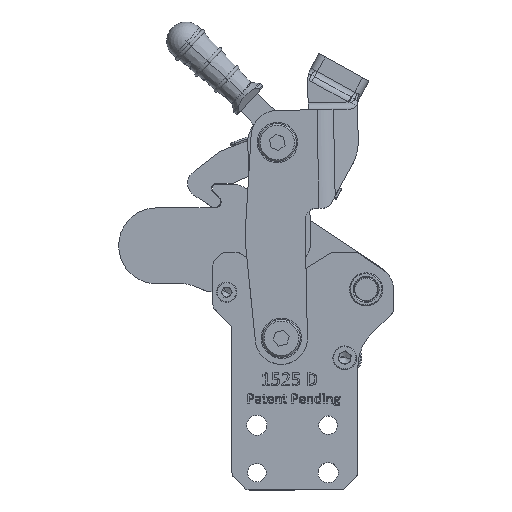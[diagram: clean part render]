
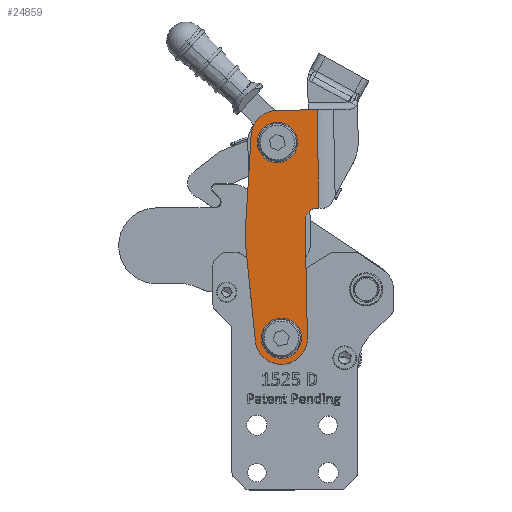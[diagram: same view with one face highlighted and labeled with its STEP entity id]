
A CAD part, top view. The second image highlights one B-rep face of the part: STEP entity #24859.
In plain terms, the highlighted planar face has unit normal (0, 0, 1).
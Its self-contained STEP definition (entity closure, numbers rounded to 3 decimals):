
#197 = EDGE_CURVE ( 'NONE', #45669, #4898, #15598, .T. ) ;
#857 = ORIENTED_EDGE ( 'NONE', *, *, #9877, .T. ) ;
#954 = DIRECTION ( 'NONE',  ( 0.081, 0.997, 0. ) ) ;
#1147 = ORIENTED_EDGE ( 'NONE', *, *, #16732, .F. ) ;
#1391 = PLANE ( 'NONE',  #32953 ) ;
#1436 = VECTOR ( 'NONE', #954, 1000. ) ;
#2856 = LINE ( 'NONE', #24605, #34793 ) ;
#2892 = EDGE_CURVE ( 'NONE', #32568, #4759, #21983, .T. ) ;
#3740 = VERTEX_POINT ( 'NONE', #32718 ) ;
#3817 = DIRECTION ( 'NONE',  ( 0., 0., 1. ) ) ;
#3863 = DIRECTION ( 'NONE',  ( 1., 0., 0. ) ) ;
#3907 = VERTEX_POINT ( 'NONE', #39711 ) ;
#4099 = DIRECTION ( 'NONE',  ( 1., 0., 0. ) ) ;
#4759 = VERTEX_POINT ( 'NONE', #37973 ) ;
#4898 = VERTEX_POINT ( 'NONE', #53456 ) ;
#5639 = CIRCLE ( 'NONE', #54226, 8.5 ) ;
#6090 = EDGE_CURVE ( 'NONE', #3907, #12150, #47302, .T. ) ;
#6093 = EDGE_CURVE ( 'NONE', #4759, #32568, #31198, .T. ) ;
#6217 = ORIENTED_EDGE ( 'NONE', *, *, #48760, .T. ) ;
#6947 = DIRECTION ( 'NONE',  ( 1., 0., 0. ) ) ;
#7826 = DIRECTION ( 'NONE',  ( 0., 0., -1. ) ) ;
#7897 = EDGE_LOOP ( 'NONE', ( #10760, #1147, #14949, #43748, #49793, #11526, #14743, #6217, #39703, #857 ) ) ;
#8576 = VERTEX_POINT ( 'NONE', #33621 ) ;
#9845 = DIRECTION ( 'NONE',  ( 0., 0., 1. ) ) ;
#9877 = EDGE_CURVE ( 'NONE', #4898, #28337, #32415, .T. ) ;
#10760 = ORIENTED_EDGE ( 'NONE', *, *, #54828, .T. ) ;
#10869 = CARTESIAN_POINT ( 'NONE',  ( 16., 49.5, 21.5 ) ) ;
#11526 = ORIENTED_EDGE ( 'NONE', *, *, #27093, .T. ) ;
#12150 = VERTEX_POINT ( 'NONE', #28262 ) ;
#12307 = ORIENTED_EDGE ( 'NONE', *, *, #34782, .F. ) ;
#12495 = AXIS2_PLACEMENT_3D ( 'NONE', #10869, #37079, #6947 ) ;
#12735 = DIRECTION ( 'NONE',  ( 0., 1., 0. ) ) ;
#13795 = DIRECTION ( 'NONE',  ( 0., 0., 1. ) ) ;
#14743 = ORIENTED_EDGE ( 'NONE', *, *, #55257, .T. ) ;
#14937 = AXIS2_PLACEMENT_3D ( 'NONE', #21009, #46615, #30047 ) ;
#14949 = ORIENTED_EDGE ( 'NONE', *, *, #6090, .F. ) ;
#15598 = LINE ( 'NONE', #24350, #28881 ) ;
#16547 = CARTESIAN_POINT ( 'NONE',  ( 0., 82.5, 21.5 ) ) ;
#16683 = EDGE_CURVE ( 'NONE', #39332, #51961, #49120, .T. ) ;
#16732 = EDGE_CURVE ( 'NONE', #12150, #27403, #35051, .T. ) ;
#16852 = CARTESIAN_POINT ( 'NONE',  ( -10.964, -0.893, 21.5 ) ) ;
#17199 = ORIENTED_EDGE ( 'NONE', *, *, #2892, .F. ) ;
#18364 = DIRECTION ( 'NONE',  ( 0., 0., 1. ) ) ;
#18637 = FACE_BOUND ( 'NONE', #51491, .T. ) ;
#19447 = CARTESIAN_POINT ( 'NONE',  ( 0., 96., 21.5 ) ) ;
#19995 = DIRECTION ( 'NONE',  ( -1., 0., 0. ) ) ;
#20503 = VECTOR ( 'NONE', #48106, 1000. ) ;
#20871 = EDGE_CURVE ( 'NONE', #23556, #27020, #5639, .T. ) ;
#21009 = CARTESIAN_POINT ( 'NONE',  ( 0., 82.5, 21.5 ) ) ;
#21983 = CIRCLE ( 'NONE', #33676, 8.5 ) ;
#22842 = ORIENTED_EDGE ( 'NONE', *, *, #6093, .F. ) ;
#22929 = CARTESIAN_POINT ( 'NONE',  ( 16.991, 54.5, 21.5 ) ) ;
#22941 = DIRECTION ( 'NONE',  ( 0., 0., 1. ) ) ;
#23556 = VERTEX_POINT ( 'NONE', #49400 ) ;
#24350 = CARTESIAN_POINT ( 'NONE',  ( 16.991, 0., 21.5 ) ) ;
#24605 = CARTESIAN_POINT ( 'NONE',  ( 11., 0., 21.5 ) ) ;
#24859 = ADVANCED_FACE ( 'NONE', ( #27656, #18637, #31858 ), #1391, .T. ) ;
#25072 = DIRECTION ( 'NONE',  ( 0., 0., 1. ) ) ;
#25213 = CIRCLE ( 'NONE', #39458, 11. ) ;
#25953 = EDGE_LOOP ( 'NONE', ( #17199, #22842 ) ) ;
#27020 = VERTEX_POINT ( 'NONE', #49069 ) ;
#27093 = EDGE_CURVE ( 'NONE', #51961, #3740, #2856, .T. ) ;
#27364 = CARTESIAN_POINT ( 'NONE',  ( 11., 0., 21.5 ) ) ;
#27403 = VERTEX_POINT ( 'NONE', #32866 ) ;
#27472 = DIRECTION ( 'NONE',  ( 1., 0., 0. ) ) ;
#27615 = LINE ( 'NONE', #30982, #20503 ) ;
#27656 = FACE_BOUND ( 'NONE', #25953, .T. ) ;
#28262 = CARTESIAN_POINT ( 'NONE',  ( -14.235, 45.749, 21.5 ) ) ;
#28337 = VERTEX_POINT ( 'NONE', #40116 ) ;
#28881 = VECTOR ( 'NONE', #50203, 1000. ) ;
#30047 = DIRECTION ( 'NONE',  ( 1., 0., 0. ) ) ;
#30982 = CARTESIAN_POINT ( 'NONE',  ( -10.964, -0.893, 21.5 ) ) ;
#31198 = CIRCLE ( 'NONE', #35662, 8.5 ) ;
#31566 = DIRECTION ( 'NONE',  ( 1., 0., 0. ) ) ;
#31858 = FACE_OUTER_BOUND ( 'NONE', #7897, .T. ) ;
#32237 = CARTESIAN_POINT ( 'NONE',  ( 21., 54.5, 21.5 ) ) ;
#32415 = LINE ( 'NONE', #19447, #51356 ) ;
#32568 = VERTEX_POINT ( 'NONE', #49166 ) ;
#32718 = CARTESIAN_POINT ( 'NONE',  ( 11., 49.5, 21.5 ) ) ;
#32866 = CARTESIAN_POINT ( 'NONE',  ( -10.964, 85.893, 21.5 ) ) ;
#32953 = AXIS2_PLACEMENT_3D ( 'NONE', #44475, #9845, #52442 ) ;
#33621 = CARTESIAN_POINT ( 'NONE',  ( 16., 54.5, 21.5 ) ) ;
#33676 = AXIS2_PLACEMENT_3D ( 'NONE', #52972, #13795, #31566 ) ;
#34044 = DIRECTION ( 'NONE',  ( 1., 0., 0. ) ) ;
#34713 = CIRCLE ( 'NONE', #14937, 8.5 ) ;
#34782 = EDGE_CURVE ( 'NONE', #27020, #23556, #34713, .T. ) ;
#34793 = VECTOR ( 'NONE', #12735, 1000. ) ;
#35051 = LINE ( 'NONE', #52271, #1436 ) ;
#35617 = AXIS2_PLACEMENT_3D ( 'NONE', #46398, #7826, #3863 ) ;
#35662 = AXIS2_PLACEMENT_3D ( 'NONE', #50365, #25072, #34044 ) ;
#35666 = AXIS2_PLACEMENT_3D ( 'NONE', #40081, #22941, #44043 ) ;
#36388 = VECTOR ( 'NONE', #27472, 1000. ) ;
#37079 = DIRECTION ( 'NONE',  ( 0., 0., -1. ) ) ;
#37703 = ORIENTED_EDGE ( 'NONE', *, *, #20871, .F. ) ;
#37973 = CARTESIAN_POINT ( 'NONE',  ( -8.5, 0., 21.5 ) ) ;
#39332 = VERTEX_POINT ( 'NONE', #16852 ) ;
#39458 = AXIS2_PLACEMENT_3D ( 'NONE', #48984, #18364, #44222 ) ;
#39703 = ORIENTED_EDGE ( 'NONE', *, *, #197, .T. ) ;
#39711 = CARTESIAN_POINT ( 'NONE',  ( -14.235, 39.251, 21.5 ) ) ;
#40081 = CARTESIAN_POINT ( 'NONE',  ( 0., 0., 21.5 ) ) ;
#40116 = CARTESIAN_POINT ( 'NONE',  ( 0., 96., 21.5 ) ) ;
#43748 = ORIENTED_EDGE ( 'NONE', *, *, #52966, .F. ) ;
#44043 = DIRECTION ( 'NONE',  ( 1., 0., 0. ) ) ;
#44222 = DIRECTION ( 'NONE',  ( 1., 0., 0. ) ) ;
#44475 = CARTESIAN_POINT ( 'NONE',  ( 0., 0., 21.5 ) ) ;
#45669 = VERTEX_POINT ( 'NONE', #22929 ) ;
#46398 = CARTESIAN_POINT ( 'NONE',  ( 25.633, 42.5, 21.5 ) ) ;
#46615 = DIRECTION ( 'NONE',  ( 0., 0., 1. ) ) ;
#47302 = CIRCLE ( 'NONE', #35617, 40. ) ;
#48106 = DIRECTION ( 'NONE',  ( -0.081, 0.997, 0. ) ) ;
#48760 = EDGE_CURVE ( 'NONE', #8576, #45669, #52829, .T. ) ;
#48984 = CARTESIAN_POINT ( 'NONE',  ( 0., 85., 21.5 ) ) ;
#49069 = CARTESIAN_POINT ( 'NONE',  ( 8.5, 82.5, 21.5 ) ) ;
#49120 = CIRCLE ( 'NONE', #35666, 11. ) ;
#49166 = CARTESIAN_POINT ( 'NONE',  ( 8.5, 0., 21.5 ) ) ;
#49355 = CIRCLE ( 'NONE', #12495, 5. ) ;
#49400 = CARTESIAN_POINT ( 'NONE',  ( -8.5, 82.5, 21.5 ) ) ;
#49793 = ORIENTED_EDGE ( 'NONE', *, *, #16683, .T. ) ;
#50203 = DIRECTION ( 'NONE',  ( 0., 1., 0. ) ) ;
#50365 = CARTESIAN_POINT ( 'NONE',  ( 0., 0., 21.5 ) ) ;
#51356 = VECTOR ( 'NONE', #19995, 1000. ) ;
#51491 = EDGE_LOOP ( 'NONE', ( #12307, #37703 ) ) ;
#51961 = VERTEX_POINT ( 'NONE', #27364 ) ;
#52271 = CARTESIAN_POINT ( 'NONE',  ( -14.235, 45.749, 21.5 ) ) ;
#52442 = DIRECTION ( 'NONE',  ( 1., 0., 0. ) ) ;
#52829 = LINE ( 'NONE', #32237, #36388 ) ;
#52966 = EDGE_CURVE ( 'NONE', #39332, #3907, #27615, .T. ) ;
#52972 = CARTESIAN_POINT ( 'NONE',  ( 0., 0., 21.5 ) ) ;
#53456 = CARTESIAN_POINT ( 'NONE',  ( 16.991, 96., 21.5 ) ) ;
#54226 = AXIS2_PLACEMENT_3D ( 'NONE', #16547, #3817, #4099 ) ;
#54828 = EDGE_CURVE ( 'NONE', #28337, #27403, #25213, .T. ) ;
#55257 = EDGE_CURVE ( 'NONE', #3740, #8576, #49355, .T. ) ;
